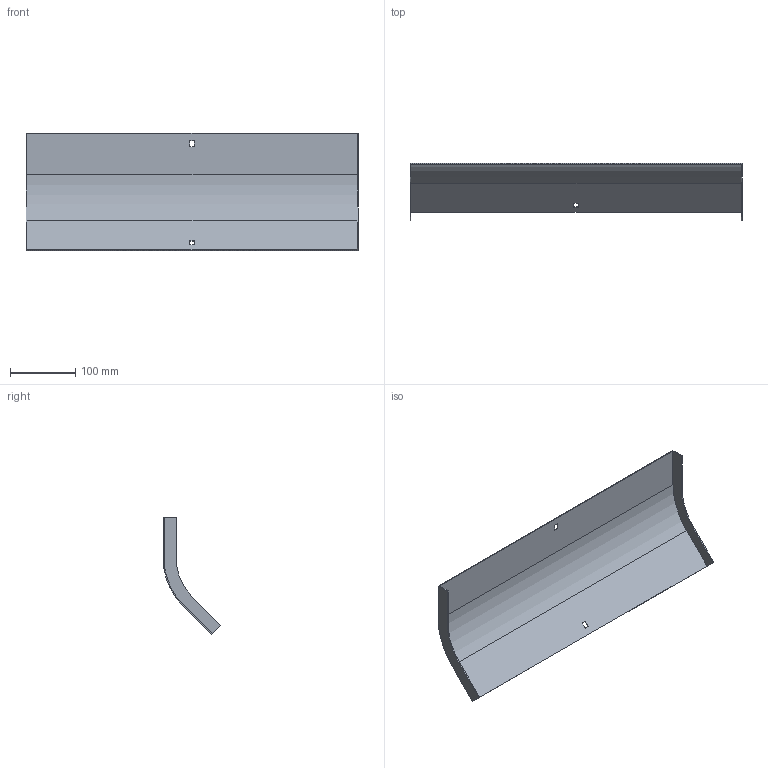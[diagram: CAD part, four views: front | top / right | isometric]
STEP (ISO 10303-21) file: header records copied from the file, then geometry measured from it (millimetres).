
FILE_DESCRIPTION (( 'STEP AP214' ), '1' );
FILE_NAME ('34G1C500.step', '2025-02-21T12:43:33', ( '' ), ( '' ), 'SwSTEP 2.0', 'SolidWorks 2023', '' );
FILE_SCHEMA (( 'AUTOMOTIVE_DESIGN' ));
Length unit declared in the file: millimetre
Products named in the file (1): 34G1C500
Bounding box: 507 x 88.23 x 178.86 mm (x, y, z)
Volume: 166333.1 mm3; surface area: 224072.7 mm2
Topology: 1 solids, 1 shells, 26 faces, 72 edges, 48 vertices
Faces by surface type: plane 22, cylinder 4
Entity records: 855 total; most frequent: CARTESIAN_POINT 147, ORIENTED_EDGE 144, DIRECTION 134, EDGE_CURVE 72, LINE 64, VECTOR 64, VERTEX_POINT 48, AXIS2_PLACEMENT_3D 35
